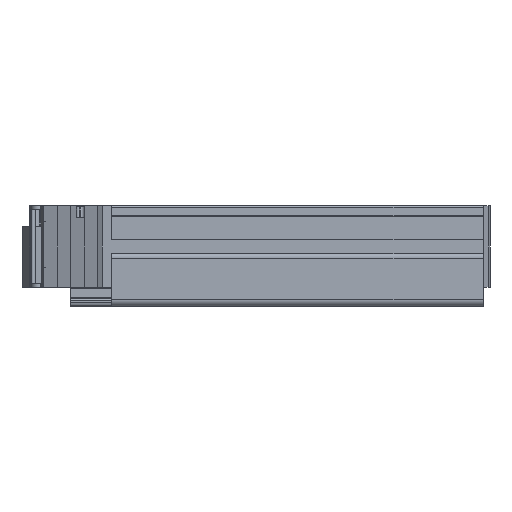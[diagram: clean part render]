
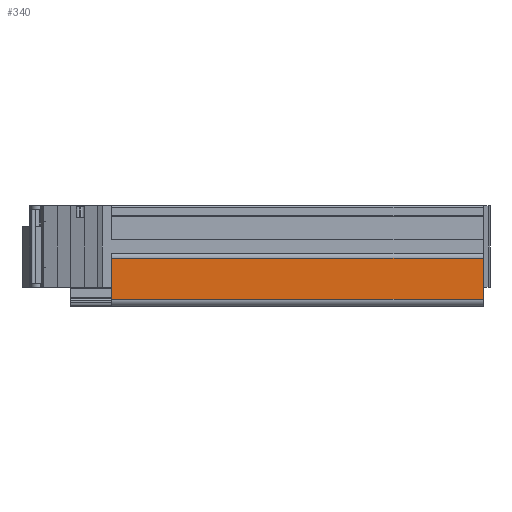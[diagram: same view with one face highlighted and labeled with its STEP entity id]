
A CAD part, left-side view. The second image highlights one B-rep face of the part: STEP entity #340.
In plain terms, the highlighted planar face has unit normal (-1, 0, 0).
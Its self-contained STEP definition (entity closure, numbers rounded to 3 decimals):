
#340 = ADVANCED_FACE( '', ( #896 ), #897, .F. );
#896 = FACE_OUTER_BOUND( '', #1717, .T. );
#897 = PLANE( '', #1718 );
#1717 = EDGE_LOOP( '', ( #2717, #2718, #2719, #2720 ) );
#1718 = AXIS2_PLACEMENT_3D( '', #2721, #2722, #2723 );
#2717 = ORIENTED_EDGE( '', *, *, #4837, .T. );
#2718 = ORIENTED_EDGE( '', *, *, #4838, .F. );
#2719 = ORIENTED_EDGE( '', *, *, #4729, .F. );
#2720 = ORIENTED_EDGE( '', *, *, #4658, .T. );
#2721 = CARTESIAN_POINT( '', ( -36.2, 48.4, -1.8 ) );
#2722 = DIRECTION( '', ( 1., 0., 0. ) );
#2723 = DIRECTION( '', ( 0., 0., -1. ) );
#4658 = EDGE_CURVE( '', #5520, #5518, #5521, .T. );
#4729 = EDGE_CURVE( '', #5520, #5646, #5647, .T. );
#4837 = EDGE_CURVE( '', #5518, #5837, #5838, .T. );
#4838 = EDGE_CURVE( '', #5646, #5837, #5839, .T. );
#5518 = VERTEX_POINT( '', #6794 );
#5520 = VERTEX_POINT( '', #6796 );
#5521 = LINE( '', #6797, #6798 );
#5646 = VERTEX_POINT( '', #6967 );
#5647 = LINE( '', #6968, #6969 );
#5837 = VERTEX_POINT( '', #7220 );
#5838 = LINE( '', #7221, #7222 );
#5839 = LINE( '', #7223, #7224 );
#6794 = CARTESIAN_POINT( '', ( -36.2, -6.4, -1.8 ) );
#6796 = CARTESIAN_POINT( '', ( -36.2, 48.4, -1.8 ) );
#6797 = CARTESIAN_POINT( '', ( -36.2, 48.4, -1.8 ) );
#6798 = VECTOR( '', #8549, 1000. );
#6967 = CARTESIAN_POINT( '', ( -36.2, 48.4, 4.3 ) );
#6968 = CARTESIAN_POINT( '', ( -36.2, 48.4, -1.8 ) );
#6969 = VECTOR( '', #8627, 1000. );
#7220 = CARTESIAN_POINT( '', ( -36.2, -6.4, 4.3 ) );
#7221 = CARTESIAN_POINT( '', ( -36.2, -6.4, -1.8 ) );
#7222 = VECTOR( '', #8776, 1000. );
#7223 = CARTESIAN_POINT( '', ( -36.2, 48.4, 4.3 ) );
#7224 = VECTOR( '', #8777, 1000. );
#8549 = DIRECTION( '', ( 0., -1., 0. ) );
#8627 = DIRECTION( '', ( 0., 0., 1. ) );
#8776 = DIRECTION( '', ( 0., 0., 1. ) );
#8777 = DIRECTION( '', ( 0., -1., 0. ) );
